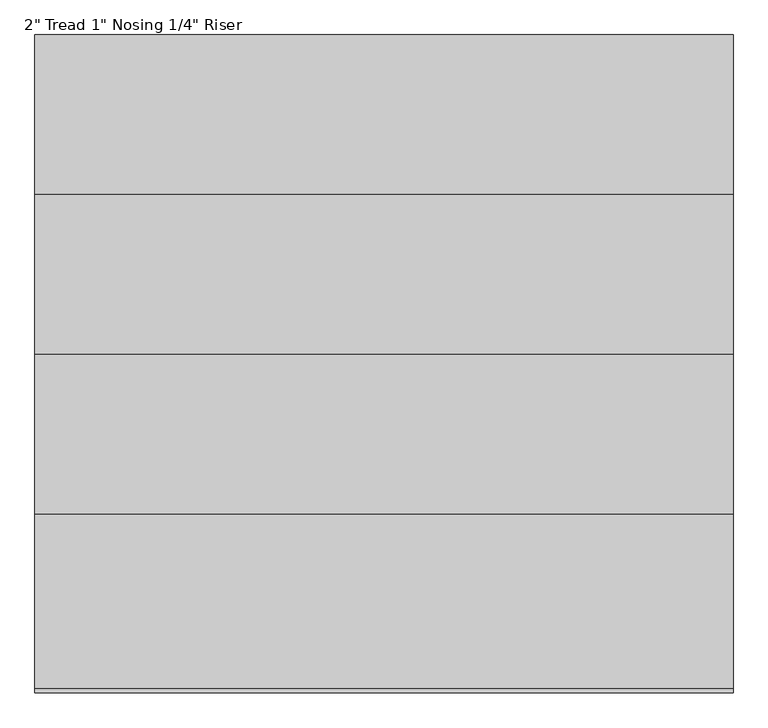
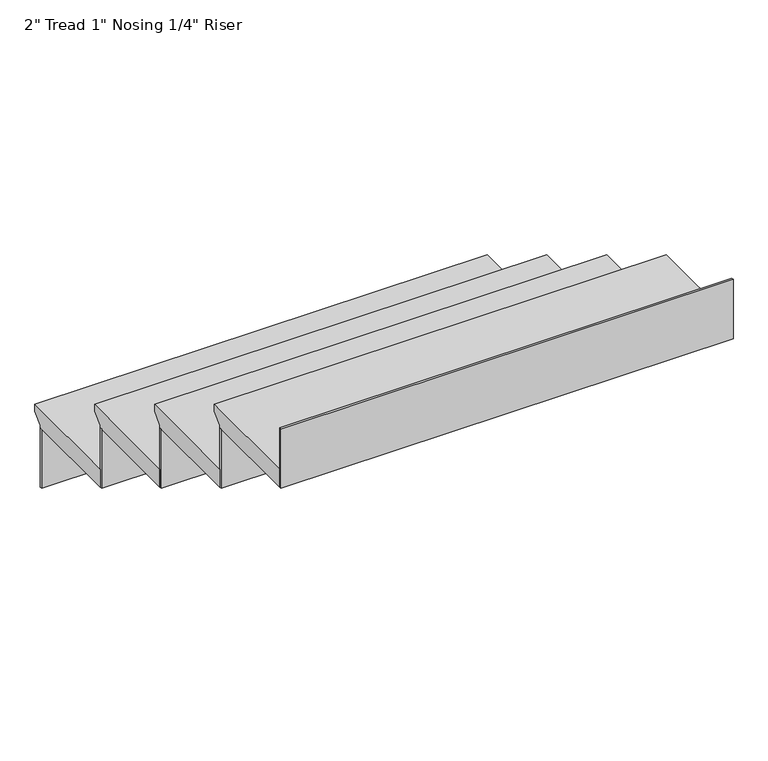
"""IFC4 building model written with IfcOpenShell, lengths in millimetres: stair flight geometry."""

from ifc_helpers import new_model, si_unit, frame, origin, place, context, project, spatial, polyline, outline, extrude, source, transform, mapped, element, save


def stair_flight_49d914ed(model_context):
    return source(origin(), model_context, "Body", "SweptSolid", [
        extrude(outline(polyline([(4609.3483604, 2370.6666667), (4914.1483604, 2370.6666667), (4914.1483604, 2351.6166667), (4888.7483604, 2326.2166667), (4888.7483604, 2319.8666667), (4609.3483604, 2319.8666667), (4609.3483604, 2370.6666667)])), frame((-1806.217382, 0.0, 0.0), z_axis=(1.0, 0.0, 0.0), x_axis=(0.0, 1.0, 0.0)), (0.0, 0.0, 1.0), 1219.2),
        extrude(outline(polyline([(-1806.217382, 4882.3983604), (-1806.217382, 4888.7483604), (-587.017382, 4888.7483604), (-587.017382, 4882.3983604), (-1806.217382, 4882.3983604)])), frame((0.0, 0.0, 2150.5333333), z_axis=(0.0, 0.0, 1.0), x_axis=(1.0, 0.0, 0.0)), (0.0, 0.0, 1.0), 169.3333333),
        extrude(outline(polyline([(-1806.217382, 4602.9983604), (-1806.217382, 4609.3483604), (-587.017382, 4609.3483604), (-587.017382, 4602.9983604), (-1806.217382, 4602.9983604)])), frame((0.0, 0.0, 2319.8666667), z_axis=(0.0, 0.0, 1.0), x_axis=(1.0, 0.0, 0.0)), (0.0, 0.0, 1.0), 169.3333333),
        extrude(outline(polyline([(4329.9483604, 2540.0), (4634.7483604, 2540.0), (4634.7483604, 2520.95), (4609.3483604, 2495.55), (4609.3483604, 2489.2), (4329.9483604, 2489.2), (4329.9483604, 2540.0)])), frame((-1806.217382, 0.0, 0.0), z_axis=(1.0, 0.0, 0.0), x_axis=(0.0, 1.0, 0.0)), (0.0, 0.0, 1.0), 1219.2),
        extrude(outline(polyline([(-1806.217382, 4323.5983604), (-1806.217382, 4329.9483604), (-587.017382, 4329.9483604), (-587.017382, 4323.5983604), (-1806.217382, 4323.5983604)])), frame((0.0, 0.0, 2489.2), z_axis=(0.0, 0.0, 1.0), x_axis=(1.0, 0.0, 0.0)), (0.0, 0.0, 1.0), 169.3333333),
        extrude(outline(polyline([(4050.5483604, 2709.3333333), (4355.3483604, 2709.3333333), (4355.3483604, 2690.2833333), (4329.9483604, 2664.8833333), (4329.9483604, 2658.5333333), (4050.5483604, 2658.5333333), (4050.5483604, 2709.3333333)])), frame((-1806.217382, 0.0, 0.0), z_axis=(1.0, 0.0, 0.0), x_axis=(0.0, 1.0, 0.0)), (0.0, 0.0, 1.0), 1219.2),
        extrude(outline(polyline([(-1806.217382, 4044.1983604), (-1806.217382, 4050.5483604), (-587.017382, 4050.5483604), (-587.017382, 4044.1983604), (-1806.217382, 4044.1983604)])), frame((0.0, 0.0, 2658.5333333), z_axis=(0.0, 0.0, 1.0), x_axis=(1.0, 0.0, 0.0)), (0.0, 0.0, 1.0), 169.3333333),
        extrude(outline(polyline([(-1806.217382, 3764.7983604), (-1806.217382, 3771.1483604), (-587.017382, 3771.1483604), (-587.017382, 3764.7983604), (-1806.217382, 3764.7983604)])), frame((0.0, 0.0, 2827.8666667), z_axis=(0.0, 0.0, 1.0), x_axis=(1.0, 0.0, 0.0)), (0.0, 0.0, 1.0), 169.3333333),
        extrude(outline(polyline([(3771.1483604, 2878.6666667), (4075.9483604, 2878.6666667), (4075.9483604, 2859.6166667), (4050.5483604, 2834.2166667), (4050.5483604, 2827.8666667), (3771.1483604, 2827.8666667), (3771.1483604, 2878.6666667)])), frame((-1806.217382, 0.0, 0.0), z_axis=(1.0, 0.0, 0.0), x_axis=(0.0, 1.0, 0.0)), (0.0, 0.0, 1.0), 1219.2),
    ])


if __name__ == "__main__":
    model = new_model("IFC4")
    model_context = context("Model", 3, world=origin())
    ifc_project = project(units=[si_unit("LENGTHUNIT", "METRE", prefix="MILLI")], contexts=[model_context])
    site = spatial("IfcSite", under=ifc_project)
    building = spatial("IfcBuilding", under=site)
    placement = place(None, origin())
    stair_flight_shape = stair_flight_49d914ed(model_context)
    element("IfcStairFlight", 1, ObjectType="2\" Tread 1\" Nosing 1/4\" Riser", at=placement, inside=building, context=model_context, shape_type="MappedRepresentation", body=[
        mapped(stair_flight_shape, transform((0.0, 0.0, 0.0), x_axis=(1.0, 0.0, 0.0), y_axis=(0.0, 1.0, 0.0), z_axis=(0.0, 0.0, 1.0))),
    ])
    save(model, "model.ifc")
